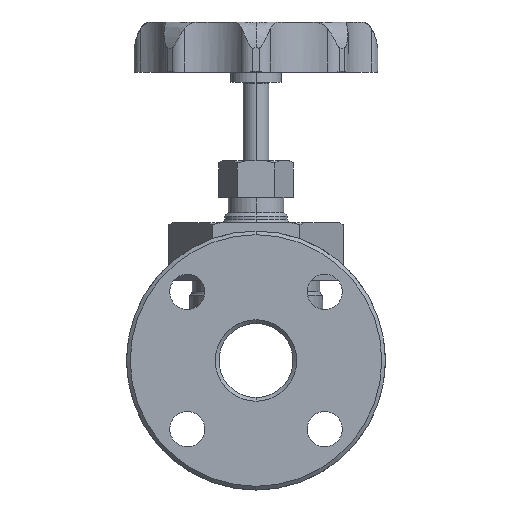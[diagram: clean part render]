
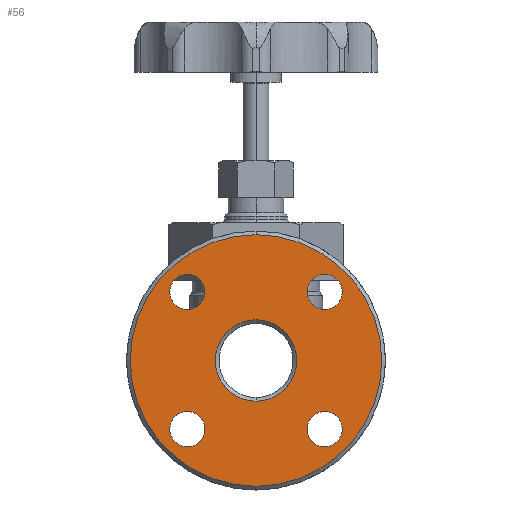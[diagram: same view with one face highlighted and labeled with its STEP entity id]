
A CAD part, left-side view. The second image highlights one B-rep face of the part: STEP entity #56.
In plain terms, the highlighted planar face has unit normal (-1, 0, 0).
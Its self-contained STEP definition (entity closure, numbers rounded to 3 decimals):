
#56=ADVANCED_FACE('',(#448,#449,#450,#451,#452,#453),#447,.T.);
#447=PLANE('',#2777);
#448=FACE_OUTER_BOUND('',#2778,.T.);
#449=FACE_BOUND('',#2779,.T.);
#450=FACE_BOUND('',#2780,.T.);
#451=FACE_BOUND('',#2781,.T.);
#452=FACE_BOUND('',#2782,.T.);
#453=FACE_BOUND('',#2783,.T.);
#2774=CARTESIAN_POINT('',(-82.5,-127.779,-146.));
#2775=DIRECTION('',(-1.,0.,0.));
#2776=DIRECTION('',(0.,0.,1.));
#2777=AXIS2_PLACEMENT_3D('',#2774,#2775,#2776);
#2778=EDGE_LOOP('',(#4532,#4533));
#2779=EDGE_LOOP('',(#4534,#4535));
#2780=EDGE_LOOP('',(#4536,#4537));
#2781=EDGE_LOOP('',(#4538,#4539));
#2782=EDGE_LOOP('',(#4540,#4541));
#2783=EDGE_LOOP('',(#4542,#4543));
#4532=ORIENTED_EDGE('',*,*,#5888,.T.);
#4533=ORIENTED_EDGE('',*,*,#5889,.T.);
#4534=ORIENTED_EDGE('',*,*,#5890,.T.);
#4535=ORIENTED_EDGE('',*,*,#5891,.T.);
#4536=ORIENTED_EDGE('',*,*,#5892,.T.);
#4537=ORIENTED_EDGE('',*,*,#5893,.T.);
#4538=ORIENTED_EDGE('',*,*,#5894,.F.);
#4539=ORIENTED_EDGE('',*,*,#5895,.F.);
#4540=ORIENTED_EDGE('',*,*,#5896,.T.);
#4541=ORIENTED_EDGE('',*,*,#5897,.T.);
#4542=ORIENTED_EDGE('',*,*,#5898,.T.);
#4543=ORIENTED_EDGE('',*,*,#5899,.T.);
#5888=EDGE_CURVE('',#7125,#7126,#7127,.T.);
#5889=EDGE_CURVE('',#7126,#7125,#7133,.T.);
#5890=EDGE_CURVE('',#7139,#7140,#7141,.T.);
#5891=EDGE_CURVE('',#7140,#7139,#7147,.T.);
#5892=EDGE_CURVE('',#7153,#7154,#7155,.T.);
#5893=EDGE_CURVE('',#7154,#7153,#7161,.T.);
#5894=EDGE_CURVE('',#7167,#7168,#7169,.T.);
#5895=EDGE_CURVE('',#7168,#7167,#7175,.T.);
#5896=EDGE_CURVE('',#7181,#7182,#7183,.T.);
#5897=EDGE_CURVE('',#7182,#7181,#7189,.T.);
#5898=EDGE_CURVE('',#7195,#7196,#7197,.T.);
#5899=EDGE_CURVE('',#7196,#7195,#7203,.T.);
#7125=VERTEX_POINT('',#11450);
#7126=VERTEX_POINT('',#11451);
#7127=CIRCLE('',#11455,68.);
#7133=CIRCLE('',#11459,68.);
#7139=VERTEX_POINT('',#11460);
#7140=VERTEX_POINT('',#11461);
#7141=CIRCLE('',#11465,9.5);
#7147=CIRCLE('',#11469,9.5);
#7153=VERTEX_POINT('',#11470);
#7154=VERTEX_POINT('',#11471);
#7155=CIRCLE('',#11475,9.5);
#7161=CIRCLE('',#11479,9.5);
#7167=VERTEX_POINT('',#11480);
#7168=VERTEX_POINT('',#11481);
#7169=CIRCLE('',#11485,22.);
#7175=CIRCLE('',#11489,22.);
#7181=VERTEX_POINT('',#11490);
#7182=VERTEX_POINT('',#11491);
#7183=CIRCLE('',#11495,9.5);
#7189=CIRCLE('',#11499,9.5);
#7195=VERTEX_POINT('',#11500);
#7196=VERTEX_POINT('',#11501);
#7197=CIRCLE('',#11505,9.5);
#7203=CIRCLE('',#11509,9.5);
#11450=CARTESIAN_POINT('',(-82.5,0.,68.));
#11451=CARTESIAN_POINT('',(-82.5,0.,-68.));
#11452=CARTESIAN_POINT('',(-82.5,0.,0.));
#11453=DIRECTION('',(-1.,0.,0.));
#11454=DIRECTION('',(0.,0.,1.));
#11455=AXIS2_PLACEMENT_3D('',#11452,#11453,#11454);
#11456=CARTESIAN_POINT('',(-82.5,0.,0.));
#11457=DIRECTION('',(-1.,0.,0.));
#11458=DIRECTION('',(0.,0.,1.));
#11459=AXIS2_PLACEMENT_3D('',#11456,#11457,#11458);
#11460=CARTESIAN_POINT('',(-82.5,37.123,-27.623));
#11461=CARTESIAN_POINT('',(-82.5,37.123,-46.623));
#11462=CARTESIAN_POINT('',(-82.5,37.123,-37.123));
#11463=DIRECTION('',(1.,0.,0.));
#11464=DIRECTION('',(0.,0.,1.));
#11465=AXIS2_PLACEMENT_3D('',#11462,#11463,#11464);
#11466=CARTESIAN_POINT('',(-82.5,37.123,-37.123));
#11467=DIRECTION('',(1.,0.,0.));
#11468=DIRECTION('',(0.,0.,1.));
#11469=AXIS2_PLACEMENT_3D('',#11466,#11467,#11468);
#11470=CARTESIAN_POINT('',(-82.5,-37.123,46.623));
#11471=CARTESIAN_POINT('',(-82.5,-37.123,27.623));
#11472=CARTESIAN_POINT('',(-82.5,-37.123,37.123));
#11473=DIRECTION('',(1.,0.,0.));
#11474=DIRECTION('',(0.,0.,1.));
#11475=AXIS2_PLACEMENT_3D('',#11472,#11473,#11474);
#11476=CARTESIAN_POINT('',(-82.5,-37.123,37.123));
#11477=DIRECTION('',(1.,0.,0.));
#11478=DIRECTION('',(0.,0.,1.));
#11479=AXIS2_PLACEMENT_3D('',#11476,#11477,#11478);
#11480=CARTESIAN_POINT('',(-82.5,0.,-22.));
#11481=CARTESIAN_POINT('',(-82.5,0.,22.));
#11482=CARTESIAN_POINT('',(-82.5,0.,0.));
#11483=DIRECTION('',(-1.,0.,0.));
#11484=DIRECTION('',(0.,0.,1.));
#11485=AXIS2_PLACEMENT_3D('',#11482,#11483,#11484);
#11486=CARTESIAN_POINT('',(-82.5,0.,0.));
#11487=DIRECTION('',(-1.,0.,0.));
#11488=DIRECTION('',(0.,0.,1.));
#11489=AXIS2_PLACEMENT_3D('',#11486,#11487,#11488);
#11490=CARTESIAN_POINT('',(-82.5,-37.123,-27.623));
#11491=CARTESIAN_POINT('',(-82.5,-37.123,-46.623));
#11492=CARTESIAN_POINT('',(-82.5,-37.123,-37.123));
#11493=DIRECTION('',(1.,0.,0.));
#11494=DIRECTION('',(0.,0.,1.));
#11495=AXIS2_PLACEMENT_3D('',#11492,#11493,#11494);
#11496=CARTESIAN_POINT('',(-82.5,-37.123,-37.123));
#11497=DIRECTION('',(1.,0.,0.));
#11498=DIRECTION('',(0.,0.,1.));
#11499=AXIS2_PLACEMENT_3D('',#11496,#11497,#11498);
#11500=CARTESIAN_POINT('',(-82.5,37.123,46.623));
#11501=CARTESIAN_POINT('',(-82.5,37.123,27.623));
#11502=CARTESIAN_POINT('',(-82.5,37.123,37.123));
#11503=DIRECTION('',(1.,0.,0.));
#11504=DIRECTION('',(0.,0.,1.));
#11505=AXIS2_PLACEMENT_3D('',#11502,#11503,#11504);
#11506=CARTESIAN_POINT('',(-82.5,37.123,37.123));
#11507=DIRECTION('',(1.,0.,0.));
#11508=DIRECTION('',(0.,0.,1.));
#11509=AXIS2_PLACEMENT_3D('',#11506,#11507,#11508);
